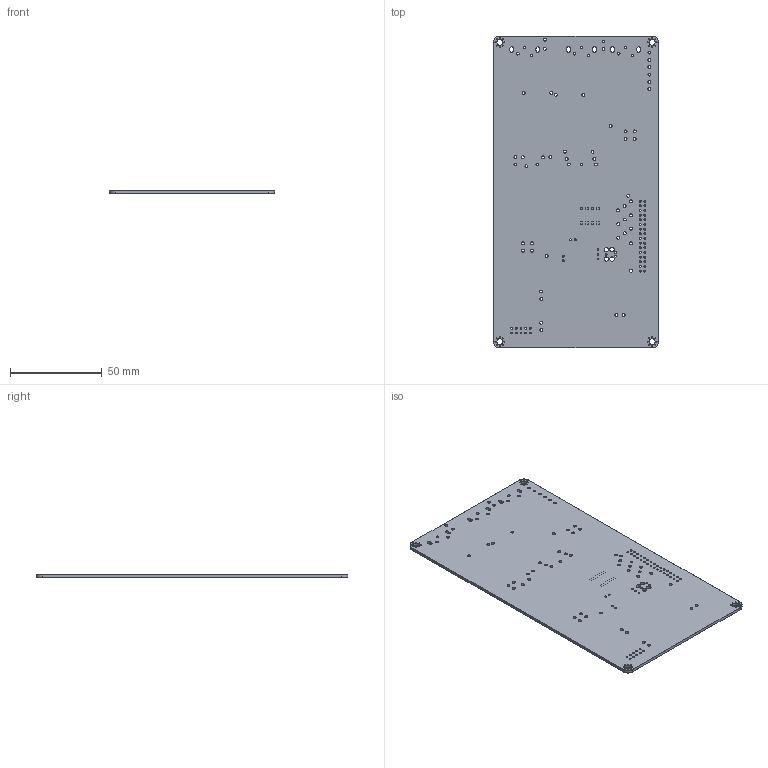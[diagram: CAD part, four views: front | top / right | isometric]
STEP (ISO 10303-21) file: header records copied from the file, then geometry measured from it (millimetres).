
FILE_DESCRIPTION(('KiCad electronic assembly'),'2;1');
FILE_NAME('Audio_daughterboard.step','2025-04-13T20:30:30',('Pcbnew'),( 'Kicad'),'Open CASCADE STEP processor 7.6','KiCad to STEP converter' ,'Unknown');
FILE_SCHEMA(('AUTOMOTIVE_DESIGN { 1 0 10303 214 1 1 1 1 }'));
Length unit declared in the file: millimetre
Products named in the file (3): Audio_daughterboard 1; Audio_daughterboard_soldermask; Audio_daughterboard_PCB
Assembly tree (2 placements, depth 2):
  Audio_daughterboard 1
    Audio_daughterboard_soldermask
    Audio_daughterboard_PCB
Bounding box: 90 x 170 x 1.61 mm (x, y, z)
Volume: 22704 mm3; surface area: 61891.7 mm2
Topology: 1 solids, 3 shells, 193 faces, 993 edges, 804 vertices
Faces by surface type: cylinder 173, plane 20
Full cylindrical faces by diameter (mm): 0.5 x32, 0.991 x3, 1 x49, 1.5 x9, 1.6 x56, 2.375 x4, 3.2 x4
Entity records: 11776 total; most frequent: DIRECTION 2077, CARTESIAN_POINT 1993, ORIENTED_EDGE 1560, EDGE_CURVE 993, AXIS2_PLACEMENT_3D 888, FACE_BOUND 853, EDGE_LOOP 853, VERTEX_POINT 804
